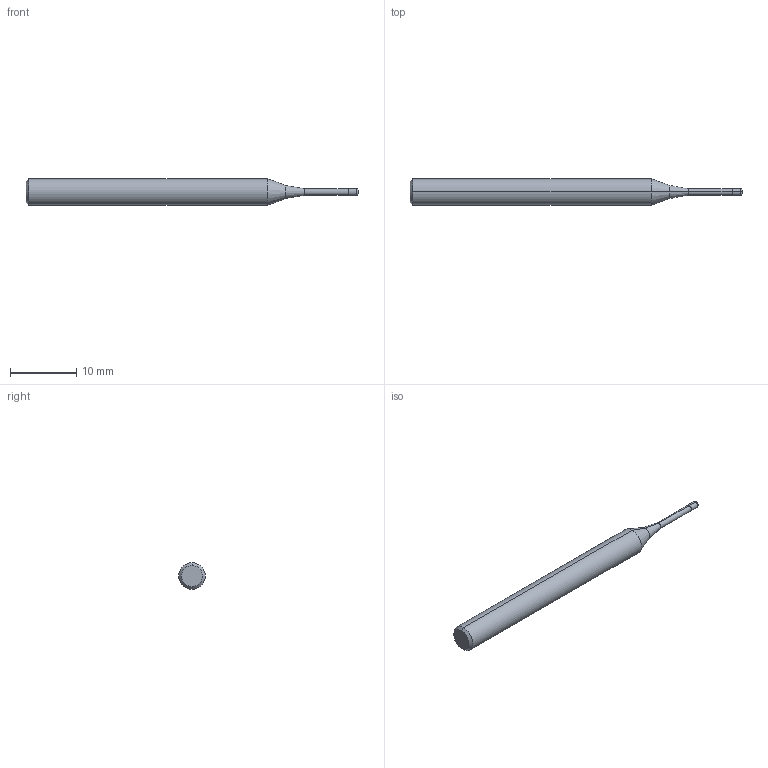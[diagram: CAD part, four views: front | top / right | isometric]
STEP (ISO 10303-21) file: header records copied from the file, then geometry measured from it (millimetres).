
FILE_DESCRIPTION (( 'STEP AP214' ), '1' );
FILE_NAME ('SEME610100208E.STEP', '2018-04-09T09:11:53', ( '' ), ( '' ), 'SwSTEP 2.0', 'SolidWorks 2014', '' );
FILE_SCHEMA (( 'AUTOMOTIVE_DESIGN' ));
Length unit declared in the file: millimetre
Products named in the file (1): SEME610100208E
Bounding box: 50 x 4 x 4 mm (x, y, z)
Volume: 486.7 mm3; surface area: 533.3 mm2
Topology: 2 solids, 2 shells, 18 faces, 32 edges, 18 vertices
Faces by surface type: cylinder 6, cone 6, plane 4, torus 2
Entity records: 479 total; most frequent: DIRECTION 90, CARTESIAN_POINT 69, ORIENTED_EDGE 64, AXIS2_PLACEMENT_3D 39, EDGE_CURVE 32, CIRCLE 20, ADVANCED_FACE 18, VERTEX_POINT 18
